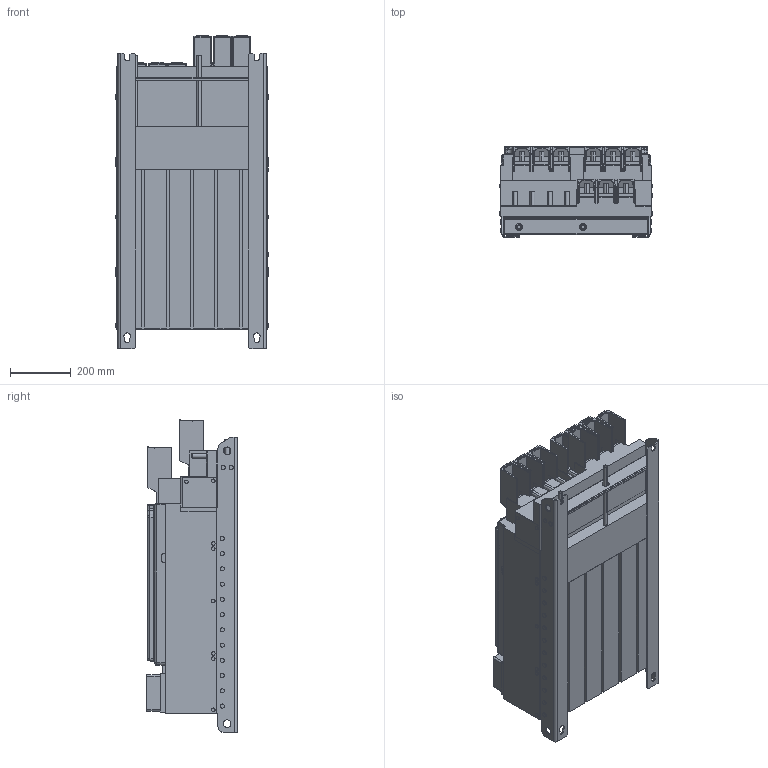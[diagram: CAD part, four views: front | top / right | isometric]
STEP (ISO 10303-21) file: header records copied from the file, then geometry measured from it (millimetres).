
FILE_DESCRIPTION (( 'STEP AP214' ), '1' );
FILE_NAME ('F6-9TW0-K001.STEP', '2022-12-21T09:28:54', ( '' ), ( '' ), 'SwSTEP 2.0', 'SolidWorks 2022', '' );
FILE_SCHEMA (( 'AUTOMOTIVE_DESIGN' ));
Length unit declared in the file: millimetre
Products named in the file (12): Kundenmodell^10049764_000; Kundenmodell mit BW^10068273_000; Kundenmodell^10059764_000; 10059666_000_Kundenmodell (mit BW''s); 10068273_000_Kundenmodell mit BW; Kundenmodell^10035735_000; F6-9TW0-K001; 10054881_000_Deckel (Kundenmodell); Kundenmodell^10054881_000; 10049764_000_Kundenmodell; 10059764_000_Blindabdeckung (Kundenmodell); 10035735_000_Kundenmodell
Assembly tree (11 placements, depth 4):
  F6-9TW0-K001
    10059666_000_Kundenmodell (mit BW''s)
      10068273_000_Kundenmodell mit BW
        Kundenmodell mit BW^10068273_000
    10049764_000_Kundenmodell
      Kundenmodell^10049764_000
    10035735_000_Kundenmodell
      10059764_000_Blindabdeckung (Kundenmodell)
        Kundenmodell^10059764_000
      Kundenmodell^10035735_000
    10054881_000_Deckel (Kundenmodell)
      Kundenmodell^10054881_000
Bounding box: 502.5 x 296.5 x 1028.38 mm (x, y, z)
Volume: 97338683.7 mm3; surface area: 4413581.3 mm2
Topology: 12 solids, 13 shells, 2949 faces, 7649 edges, 4806 vertices
Faces by surface type: plane 1389, cylinder 975, bspline 258, cone 154, sphere 92, torus 81
Entity records: 98112 total; most frequent: CARTESIAN_POINT 27796, ORIENTED_EDGE 15130, DIRECTION 13879, EDGE_CURVE 7565, VERTEX_POINT 4806, AXIS2_PLACEMENT_3D 4671, LINE 4537, VECTOR 4537
